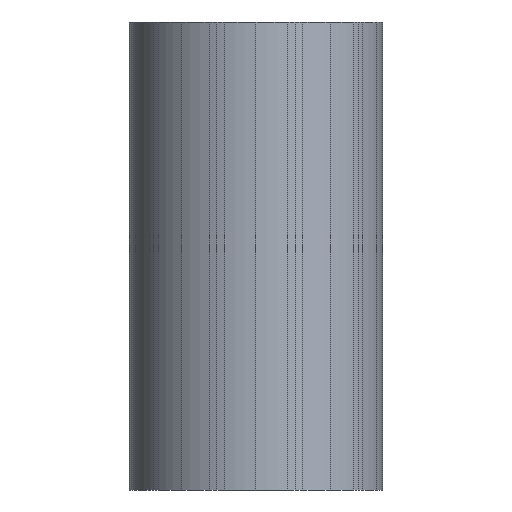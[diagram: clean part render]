
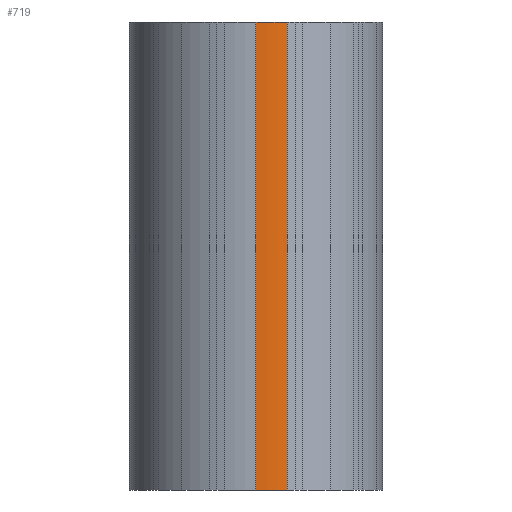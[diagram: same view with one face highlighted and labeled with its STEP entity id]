
A CAD part, front view. The second image highlights one B-rep face of the part: STEP entity #719.
In plain terms, the highlighted cylindrical face has radius 23 mm (diameter 46 mm), a partial arc.
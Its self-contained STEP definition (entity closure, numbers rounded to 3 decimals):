
#657 = EDGE_CURVE('',#658,#660,#662,.T.);
#658 = VERTEX_POINT('',#659);
#659 = CARTESIAN_POINT('',(5.72,-22.277,15.));
#660 = VERTEX_POINT('',#661);
#661 = CARTESIAN_POINT('',(5.72,-22.277,100.));
#662 = LINE('',#663,#664);
#663 = CARTESIAN_POINT('',(5.72,-22.277,15.));
#664 = VECTOR('',#665,1.);
#665 = DIRECTION('',(0.,0.,1.));
#719 = ADVANCED_FACE('',(#720),#747,.T.);
#720 = FACE_BOUND('',#721,.F.);
#721 = EDGE_LOOP('',(#722,#732,#739,#740));
#722 = ORIENTED_EDGE('',*,*,#723,.T.);
#723 = EDGE_CURVE('',#724,#726,#728,.T.);
#724 = VERTEX_POINT('',#725);
#725 = CARTESIAN_POINT('',(0.,-23.,15.));
#726 = VERTEX_POINT('',#727);
#727 = CARTESIAN_POINT('',(0.,-23.,100.));
#728 = LINE('',#729,#730);
#729 = CARTESIAN_POINT('',(0.,-23.,15.));
#730 = VECTOR('',#731,1.);
#731 = DIRECTION('',(0.,0.,1.));
#732 = ORIENTED_EDGE('',*,*,#733,.T.);
#733 = EDGE_CURVE('',#726,#660,#734,.T.);
#734 = CIRCLE('',#735,23.);
#735 = AXIS2_PLACEMENT_3D('',#736,#737,#738);
#736 = CARTESIAN_POINT('',(0.,0.,100.));
#737 = DIRECTION('',(0.,0.,1.));
#738 = DIRECTION('',(0.,-1.,0.));
#739 = ORIENTED_EDGE('',*,*,#657,.F.);
#740 = ORIENTED_EDGE('',*,*,#741,.F.);
#741 = EDGE_CURVE('',#724,#658,#742,.T.);
#742 = CIRCLE('',#743,23.);
#743 = AXIS2_PLACEMENT_3D('',#744,#745,#746);
#744 = CARTESIAN_POINT('',(0.,0.,15.));
#745 = DIRECTION('',(0.,0.,1.));
#746 = DIRECTION('',(0.,-1.,0.));
#747 = CYLINDRICAL_SURFACE('',#748,23.);
#748 = AXIS2_PLACEMENT_3D('',#749,#750,#751);
#749 = CARTESIAN_POINT('',(0.,0.,15.));
#750 = DIRECTION('',(-0.,-0.,-1.));
#751 = DIRECTION('',(0.,-1.,0.));
